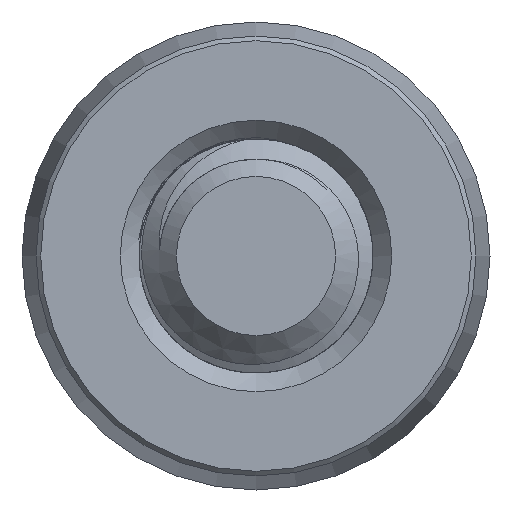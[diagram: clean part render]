
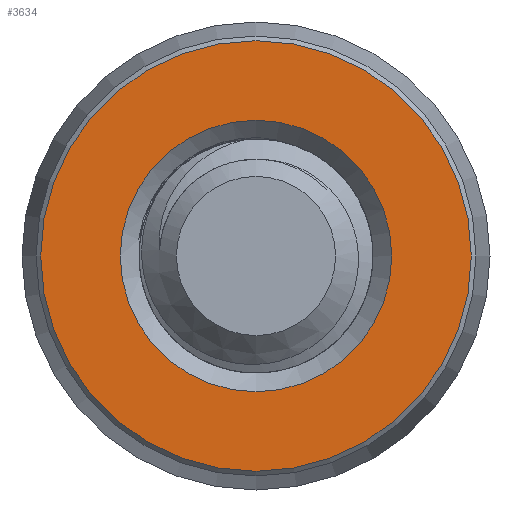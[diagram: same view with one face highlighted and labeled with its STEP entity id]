
A CAD part, front view. The second image highlights one B-rep face of the part: STEP entity #3634.
In plain terms, the highlighted planar face has unit normal (0, -1, 0).
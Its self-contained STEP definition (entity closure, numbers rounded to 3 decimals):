
#304 = VERTEX_POINT ( 'NONE', #6243 ) ;
#650 = DIRECTION ( 'NONE',  ( 0., 1., 0. ) ) ;
#823 = ORIENTED_EDGE ( 'NONE', *, *, #2519, .T. ) ;
#1232 = PLANE ( 'NONE',  #1903 ) ;
#1903 = AXIS2_PLACEMENT_3D ( 'NONE', #2171, #650, #3229 ) ;
#2046 = ORIENTED_EDGE ( 'NONE', *, *, #5804, .T. ) ;
#2171 = CARTESIAN_POINT ( 'NONE',  ( -4.7, 0., 0. ) ) ;
#2519 = EDGE_CURVE ( 'NONE', #304, #304, #5870, .T. ) ;
#2656 = CARTESIAN_POINT ( 'NONE',  ( 0., 0., 2.9 ) ) ;
#2847 = FACE_BOUND ( 'NONE', #4874, .T. ) ;
#3229 = DIRECTION ( 'NONE',  ( 0., 0., 1. ) ) ;
#3280 = DIRECTION ( 'NONE',  ( 0., 1., 0. ) ) ;
#3488 = VERTEX_POINT ( 'NONE', #2656 ) ;
#3634 = ADVANCED_FACE ( 'NONE', ( #2847, #5933 ), #1232, .F. ) ;
#3791 = CARTESIAN_POINT ( 'NONE',  ( 0., 0., 0. ) ) ;
#3989 = DIRECTION ( 'NONE',  ( 0., -1., 0. ) ) ;
#4874 = EDGE_LOOP ( 'NONE', ( #2046 ) ) ;
#5014 = CARTESIAN_POINT ( 'NONE',  ( 0., 0., 0. ) ) ;
#5078 = DIRECTION ( 'NONE',  ( 0., 0., 1. ) ) ;
#5804 = EDGE_CURVE ( 'NONE', #3488, #3488, #6376, .T. ) ;
#5870 = CIRCLE ( 'NONE', #6224, 4.6 ) ;
#5933 = FACE_OUTER_BOUND ( 'NONE', #6263, .T. ) ;
#6224 = AXIS2_PLACEMENT_3D ( 'NONE', #5014, #3989, #5078 ) ;
#6243 = CARTESIAN_POINT ( 'NONE',  ( 0., 0., 4.6 ) ) ;
#6263 = EDGE_LOOP ( 'NONE', ( #823 ) ) ;
#6283 = DIRECTION ( 'NONE',  ( 0., 0., 1. ) ) ;
#6376 = CIRCLE ( 'NONE', #6460, 2.9 ) ;
#6460 = AXIS2_PLACEMENT_3D ( 'NONE', #3791, #3280, #6283 ) ;
